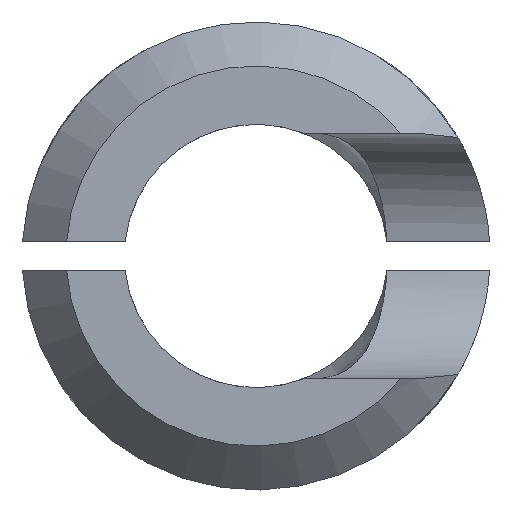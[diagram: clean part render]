
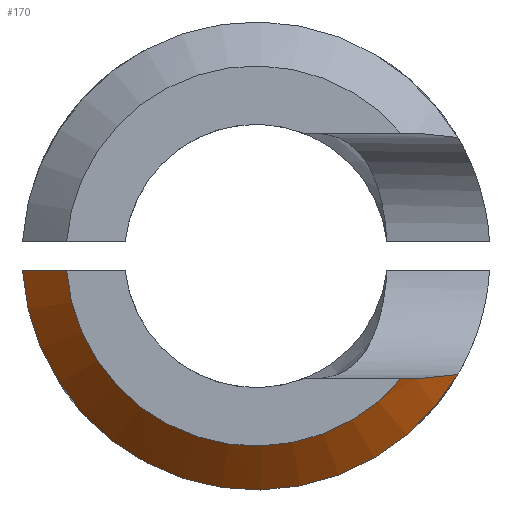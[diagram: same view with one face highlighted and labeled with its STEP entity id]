
A CAD part, front view. The second image highlights one B-rep face of the part: STEP entity #170.
In plain terms, the highlighted conical face has half-angle 45 degrees and reference radius 20.625 mm.
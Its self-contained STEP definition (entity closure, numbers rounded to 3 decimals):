
#170 = ADVANCED_FACE( '', ( #368 ), #369, .T. );
#368 = FACE_OUTER_BOUND( '', #573, .T. );
#369 = CONICAL_SURFACE( '', #574, 20.625, 0.785 );
#573 = EDGE_LOOP( '', ( #1101, #1102, #1103, #1104, #1105 ) );
#574 = AXIS2_PLACEMENT_3D( '', #1106, #1107, #1108 );
#1101 = ORIENTED_EDGE( '', *, *, #1581, .T. );
#1102 = ORIENTED_EDGE( '', *, *, #1464, .T. );
#1103 = ORIENTED_EDGE( '', *, *, #1582, .F. );
#1104 = ORIENTED_EDGE( '', *, *, #1458, .F. );
#1105 = ORIENTED_EDGE( '', *, *, #1481, .F. );
#1106 = CARTESIAN_POINT( '', ( 0., -43.18, 0. ) );
#1107 = DIRECTION( '', ( 0., 1., 0. ) );
#1108 = DIRECTION( '', ( 0., 0., 1. ) );
#1458 = EDGE_CURVE( '', #3175, #3177, #3178, .T. );
#1464 = EDGE_CURVE( '', #3188, #3186, #3189, .T. );
#1481 = EDGE_CURVE( '', #3215, #3175, #3217, .F. );
#1581 = EDGE_CURVE( '', #3215, #3188, #3356, .T. );
#1582 = EDGE_CURVE( '', #3177, #3186, #3357, .T. );
#3175 = VERTEX_POINT( '', #3578 );
#3177 = VERTEX_POINT( '', #3581 );
#3178 = B_SPLINE_CURVE_WITH_KNOTS( '', 3, ( #3582, #3583, #3584, #3585 ), .UNSPECIFIED., .F., .F., ( 4, 4 ), ( 0.043, 0.05 ), .UNSPECIFIED. );
#3186 = VERTEX_POINT( '', #3595 );
#3188 = VERTEX_POINT( '', #3598 );
#3189 = B_SPLINE_CURVE_WITH_KNOTS( '', 3, ( #3599, #3600, #3601, #3602 ), .UNSPECIFIED., .F., .F., ( 4, 4 ), ( 0.023, 0.025 ), .UNSPECIFIED. );
#3215 = VERTEX_POINT( '', #3801 );
#3217 = CIRCLE( '', #3822, 25.4 );
#3356 = B_SPLINE_CURVE_WITH_KNOTS( '', 3, ( #4339, #4340, #4341, #4342 ), .UNSPECIFIED., .F., .F., ( 4, 4 ), ( 0.001, 0.006 ), .UNSPECIFIED. );
#3357 = CIRCLE( '', #4343, 20.625 );
#3578 = CARTESIAN_POINT( '', ( -25.35, -38.405, -1.588 ) );
#3581 = CARTESIAN_POINT( '', ( -20.564, -43.18, -1.588 ) );
#3582 = CARTESIAN_POINT( '', ( -25.35, -38.405, -1.588 ) );
#3583 = CARTESIAN_POINT( '', ( -23.755, -39.997, -1.588 ) );
#3584 = CARTESIAN_POINT( '', ( -22.16, -41.589, -1.588 ) );
#3585 = CARTESIAN_POINT( '', ( -20.564, -43.18, -1.588 ) );
#3595 = CARTESIAN_POINT( '', ( 15.734, -43.18, -13.335 ) );
#3598 = CARTESIAN_POINT( '', ( 17.365, -41.91, -13.335 ) );
#3599 = CARTESIAN_POINT( '', ( 17.365, -41.91, -13.335 ) );
#3600 = CARTESIAN_POINT( '', ( 16.826, -42.338, -13.335 ) );
#3601 = CARTESIAN_POINT( '', ( 16.282, -42.762, -13.335 ) );
#3602 = CARTESIAN_POINT( '', ( 15.734, -43.18, -13.335 ) );
#3801 = CARTESIAN_POINT( '', ( 21.9, -38.405, -12.866 ) );
#3822 = AXIS2_PLACEMENT_3D( '', #4414, #4415, #4416 );
#4339 = CARTESIAN_POINT( '', ( 21.9, -38.405, -12.866 ) );
#4340 = CARTESIAN_POINT( '', ( 20.388, -39.551, -13.178 ) );
#4341 = CARTESIAN_POINT( '', ( 18.873, -40.715, -13.335 ) );
#4342 = CARTESIAN_POINT( '', ( 17.365, -41.91, -13.335 ) );
#4343 = AXIS2_PLACEMENT_3D( '', #4536, #4537, #4538 );
#4414 = CARTESIAN_POINT( '', ( 0., -38.405, 0. ) );
#4415 = DIRECTION( '', ( 0., -1., 0. ) );
#4416 = DIRECTION( '', ( 0., 0., -1. ) );
#4536 = CARTESIAN_POINT( '', ( 0., -43.18, 0. ) );
#4537 = DIRECTION( '', ( 0., -1., 0. ) );
#4538 = DIRECTION( '', ( 0., 0., -1. ) );
